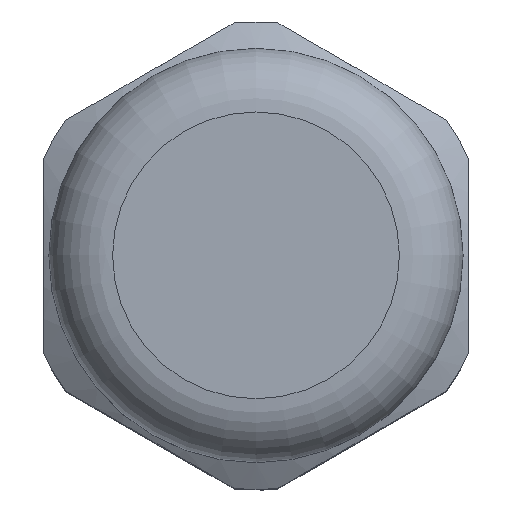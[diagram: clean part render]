
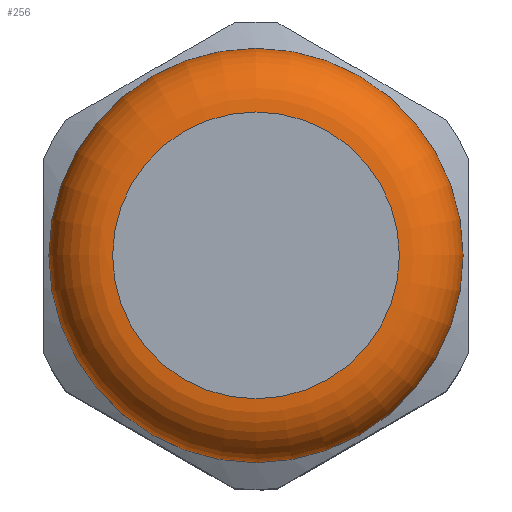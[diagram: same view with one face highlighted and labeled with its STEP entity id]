
A CAD part, top view. The second image highlights one B-rep face of the part: STEP entity #256.
In plain terms, the highlighted toroidal (fillet/blend) face has major radius 6.75 mm and minor radius 3 mm.
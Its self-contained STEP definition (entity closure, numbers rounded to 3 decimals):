
#225=CARTESIAN_POINT('',(-6.75,0.,39.0));
#226=VERTEX_POINT('',#225);
#227=CARTESIAN_POINT('',(0.,0.,39.0));
#228=DIRECTION('',(0.0,0.0,-1.0));
#229=DIRECTION('',(1.0,0.0,0.0));
#230=AXIS2_PLACEMENT_3D('',#227,#228,#229);
#231=CIRCLE('',#230,6.75);
#232=EDGE_CURVE('',#226,#226,#231,.T.);
#237=CARTESIAN_POINT('',(0.,0.,36.0));
#238=DIRECTION('',(0.,0.,1.0));
#239=DIRECTION('',(-1.0,0.0,0.0));
#240=AXIS2_PLACEMENT_3D('',#237,#238,#239);
#241=TOROIDAL_SURFACE('',#240,6.75,3.0);
#242=CARTESIAN_POINT('',(-9.75,0.,36.0));
#243=VERTEX_POINT('',#242);
#244=CARTESIAN_POINT('',(0.,0.,36.0));
#245=DIRECTION('',(0.0,0.0,1.0));
#246=DIRECTION('',(1.0,0.0,0.0));
#247=AXIS2_PLACEMENT_3D('',#244,#245,#246);
#248=CIRCLE('',#247,9.75);
#249=EDGE_CURVE('',#243,#243,#248,.T.);
#250=ORIENTED_EDGE('',*,*,#249,.T.);
#251=EDGE_LOOP('',(#250));
#252=FACE_OUTER_BOUND('',#251,.T.);
#253=ORIENTED_EDGE('',*,*,#232,.T.);
#254=EDGE_LOOP('',(#253));
#255=FACE_BOUND('',#254,.T.);
#256=ADVANCED_FACE('',(#252,#255),#241,.T.);
